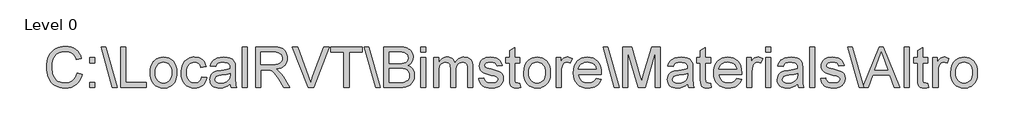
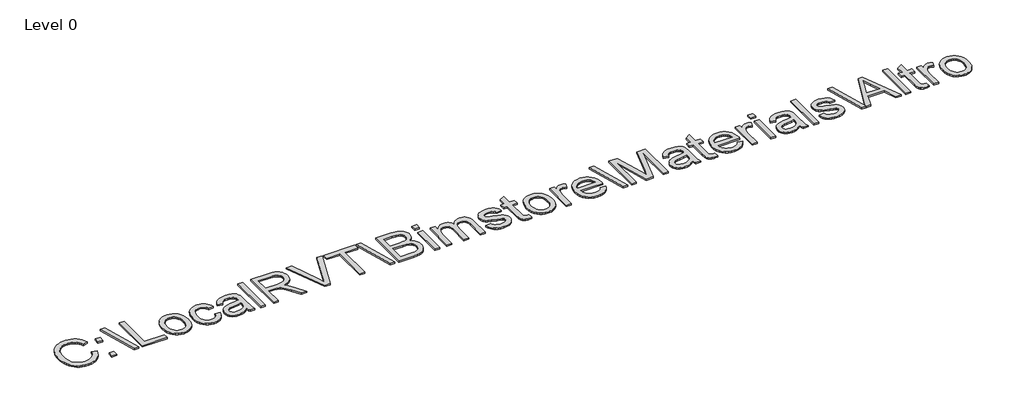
# One storey, part 5 of 6: 1 proxy.
"""IFC4 building model written with IfcOpenShell, lengths in millimetres."""

from ifc_helpers import new_model, si_unit, origin, origin_with_axes, place, context, project, spatial, polyline, outline, extrude, element, save

model = new_model("IFC4")

# Units and contexts
model_context = context("Model", 3, world=origin())
ifc_project = project(units=[si_unit("LENGTHUNIT", "METRE", prefix="MILLI")], contexts=[model_context])

# Site, building, storey
site = spatial("IfcSite", under=ifc_project)
building = spatial("IfcBuilding", under=site)
storey = spatial("IfcBuildingStorey", under=building, Name="Level 0", Elevation=0.0)

# Proxy
placement = place(None, origin())
element("IfcBuildingElementProxy", 1, Name="300mm Arial", ObjectType="300mm Arial", at=placement, inside=storey, context=model_context, shape_type="SweptSolid", body=[
    extrude(outline(polyline([(-63061.1102763, 92194.0638738), (-62975.4133066, 92171.9701238), (-62992.3706782, 92118.6762746), (-63014.9560978, 92072.1088844), (-63043.1695655, 92032.2679532), (-63077.0110813, 91999.1534808), (-63115.716988, 91973.1211433), (-63158.5236286, 91954.5266164), (-63205.4310031, 91943.3699004), (-63256.4391116, 91939.650995), (-63308.6973162, 91942.465019), (-63355.8400645, 91950.9070911), (-63397.8673564, 91964.9772113), (-63434.7791921, 91984.6753795), (-63467.0829326, 92009.7086862), (-63495.2859392, 92039.7842218), (-63519.388212, 92074.9019864), (-63539.3897508, 92115.0619798), (-63555.0970262, 92158.527667), (-63566.3165086, 92203.5625125), (-63573.048198, 92250.1665164), (-63575.2920945, 92298.3396787), (-63572.7552885, 92350.0277558), (-63565.1448703, 92398.3055286), (-63552.4608401, 92443.1729972), (-63534.7031977, 92484.6301617), (-63512.2694634, 92521.9918227), (-63485.5571573, 92554.5727812), (-63454.5662792, 92582.3730372), (-63419.2968294, 92605.3925906), (-63380.9465986, 92623.4431425), (-63340.7133777, 92636.3363939), (-63298.5971667, 92644.0723447), (-63254.5979657, 92646.650995), (-63205.5826885, 92643.3139182), (-63160.6367619, 92633.3026877), (-63119.7601861, 92616.6173036), (-63082.952961, 92593.2577658), (-63050.8218279, 92563.8412767), (-63023.973528, 92528.9850386), (-63002.4080613, 92488.6890513), (-62986.1254279, 92442.9533151), (-63071.8223976, 92422.533334), (-63085.3171596, 92456.2336255), (-63101.5317962, 92485.0276818), (-63120.4663074, 92508.9155029), (-63142.120693, 92527.8970887), (-63166.6204859, 92542.3594985), (-63194.0912186, 92552.6897912), (-63224.5328912, 92558.8879668), (-63257.9455036, 92560.9540253), (-63296.3898839, 92558.6630541), (-63331.5494927, 92551.7901404), (-63363.42433, 92540.3352842), (-63392.0143957, 92524.2984855), (-63416.9587834, 92504.4015573), (-63437.8965867, 92481.3663122), (-63454.8278056, 92455.1927504), (-63467.7524402, 92425.8808719), (-63484.1344537, 92363.1563809), (-63489.5951248, 92298.5070556), (-63487.9788917, 92257.583405), (-63483.1301923, 92219.3377848), (-63475.0490266, 92183.7701948), (-63463.7353947, 92150.8806351), (-63449.006228, 92121.3229218), (-63430.6784582, 92095.7508707), (-63408.7520851, 92074.1644819), (-63383.2271087, 92056.5637554), (-63355.3431643, 92042.906847), (-63326.3398869, 92033.1519124), (-63296.2172765, 92027.2989516), (-63264.9753332, 92025.3479647), (-63227.7182827, 92028.0050729), (-63193.4426331, 92035.9763975), (-63162.1483845, 92049.2619384), (-63133.8355368, 92067.8616958), (-63109.1735975, 92091.691981), (-63088.8320744, 92120.6691058), (-63072.8109673, 92154.79307), (-63061.1102763, 92194.0638738)])), origin_with_axes(), (0.0, 0.0, 1.0), 25.0),
    extrude(outline(polyline([(-62846.8678521, 91950.3631162), (-62846.8678521, 92036.0600859), (-62761.1708824, 92036.0600859), (-62761.1708824, 91950.3631162), (-62846.8678521, 91950.3631162)])), origin_with_axes(), (0.0, 0.0, 1.0), 25.0),
    extrude(outline(polyline([(-62846.8678521, 92368.1358435), (-62846.8678521, 92453.8328132), (-62761.1708824, 92453.8328132), (-62761.1708824, 92368.1358435), (-62846.8678521, 92368.1358435)])), origin_with_axes(), (0.0, 0.0, 1.0), 25.0),
    extrude(outline(polyline([(-62463.574765, 91950.3631162), (-62656.3929468, 92635.9388738), (-62579.0648218, 92635.9388738), (-62386.24664, 91950.3631162), (-62463.574765, 91950.3631162)])), origin_with_axes(), (0.0, 0.0, 1.0), 25.0),
    extrude(outline(polyline([(-62321.9739127, 91950.3631162), (-62321.9739127, 92635.9388738), (-62236.276943, 92635.9388738), (-62236.276943, 92036.0600859), (-61893.4890642, 92036.0600859), (-61893.4890642, 91950.3631162), (-62321.9739127, 91950.3631162)])), origin_with_axes(), (0.0, 0.0, 1.0), 25.0),
    extrude(outline(polyline([(-61829.216337, 92202.0979647), (-61824.5820892, 92267.3017259), (-61810.6793459, 92323.488057), (-61787.5081072, 92370.6569579), (-61772.446802, 92390.8598721), (-61755.0683729, 92408.8084287), (-61722.4089565, 92433.1931499), (-61686.360158, 92450.610808), (-61646.9219773, 92461.0614028), (-61604.0944146, 92464.5449344), (-61556.8156726, 92460.3029762), (-61514.0665678, 92447.5771018), (-61475.8471001, 92426.367311), (-61442.1572697, 92396.6736039), (-61414.6603844, 92359.5002419), (-61395.019752, 92315.8514862), (-61383.2353725, 92265.727337), (-61379.307246, 92209.1277942), (-61381.0437813, 92163.2560642), (-61386.2533871, 92122.5520958), (-61394.9360635, 92087.0158891), (-61407.0918104, 92056.6474439), (-61422.5689426, 92030.4163463), (-61441.2157747, 92007.2921823), (-61463.0323067, 91987.2749518), (-61488.0185387, 91970.364655), (-61515.2015923, 91956.9274288), (-61543.6085896, 91947.32941), (-61573.2395303, 91941.5705987), (-61604.0944146, 91939.650995), (-61652.0635863, 91943.8772616), (-61695.2102112, 91956.5560613), (-61733.5342894, 91977.6873941), (-61767.0358209, 92007.2712601), (-61794.2397966, 92044.8055286), (-61813.6712079, 92089.7880689), (-61825.3300547, 92142.2188809), (-61829.216337, 92202.0979647)]), holes=[polyline([(-61743.5193673, 92202.2653416), (-61741.040097, 92160.6983361), (-61733.6022863, 92124.7070734), (-61721.2059351, 92094.2915534), (-61703.8510434, 92069.4517762), (-61682.7406326, 92050.1563587), (-61659.0777243, 92036.3739176), (-61632.8623182, 92028.1044529), (-61604.0944146, 92025.3479647), (-61575.4729657, 92028.1201445), (-61549.3621703, 92036.4366839), (-61525.7620282, 92050.2975829), (-61504.6725396, 92069.7028416), (-61487.3176479, 92094.7884536), (-61474.9212967, 92125.6904126), (-61467.483486, 92162.4087187), (-61465.0042157, 92204.9433719), (-61467.4991776, 92245.1922844), (-61474.984063, 92280.242052), (-61487.4588722, 92310.092675), (-61504.9236049, 92334.7441531), (-61526.0915515, 92354.0395707), (-61549.676002, 92367.8220118), (-61575.6769563, 92376.0914765), (-61604.0944146, 92378.8479647), (-61632.8623182, 92376.1019375), (-61659.0777243, 92367.863856), (-61682.7406326, 92354.1337202), (-61703.8510434, 92334.91153), (-61721.2059351, 92310.1449803), (-61733.6022863, 92279.7817656), (-61741.040097, 92243.821886), (-61743.5193673, 92202.2653416)])]), origin_with_axes(), (0.0, 0.0, 1.0), 25.0),
    extrude(outline(polyline([(-60961.5345188, 92132.4691768), (-60875.8375491, 92121.7570556), (-60885.1583499, 92081.3198441), (-60899.7306007, 92045.5378025), (-60919.5543016, 92014.4109308), (-60944.6294525, 91987.9392289), (-60973.8994868, 91966.8131266), (-61006.3078379, 91951.7230535), (-61041.8545057, 91942.6690096), (-61080.5394904, 91939.650995), (-61128.6028116, 91943.86157), (-61171.6971312, 91956.4932949), (-61209.8224493, 91977.5461699), (-61242.9787659, 92007.0201948), (-61269.8166048, 92044.3609337), (-61288.9864896, 92089.0139507), (-61300.4884206, 92140.9792458), (-61304.3223976, 92200.2568189), (-61302.6852423, 92239.6583858), (-61297.7737766, 92276.5179162), (-61289.5880004, 92310.8354099), (-61278.1279137, 92342.6108672), (-61263.3150585, 92371.2061634), (-61245.0709771, 92395.9831742), (-61223.3956693, 92416.9418996), (-61198.2891352, 92434.0823397), (-61170.8863994, 92447.4097249), (-61142.3224863, 92456.9292857), (-61112.5973961, 92462.6410222), (-61081.7111286, 92464.5449344), (-61043.6904211, 92461.9296704), (-61009.2996999, 92454.0838785), (-60978.5389651, 92441.0075587), (-60951.4082167, 92422.7007109), (-60928.3677411, 92399.5817774), (-60909.8778249, 92372.0692005), (-60895.9384679, 92340.1629801), (-60886.5496703, 92303.8631162), (-60972.24664, 92293.150995), (-60987.791769, 92330.5388087), (-60998.8124914, 92345.2627448), (-61011.9986523, 92357.3400338), (-61043.5282747, 92373.470982), (-61081.041621, 92378.8479647), (-61110.1599701, 92376.2013176), (-61136.4224508, 92368.2613762), (-61159.8290633, 92355.0281405), (-61180.3798076, 92336.5016105), (-61197.1122665, 92312.252883), (-61209.0640228, 92281.8530547), (-61216.2350766, 92245.3021254), (-61218.6254279, 92202.6000954), (-61216.2873819, 92159.2547104), (-61209.2732439, 92122.2801084), (-61197.583014, 92091.6762894), (-61181.2166921, 92067.4432535), (-61161.073929, 92049.0265647), (-61138.0543755, 92035.8717869), (-61112.1580317, 92027.9789202), (-61083.3848976, 92025.3479647), (-61060.1979672, 92026.9903505), (-61039.0090986, 92031.9175078), (-61019.8182916, 92040.1294366), (-61002.6255462, 92051.626137), (-60987.9120711, 92066.5331417), (-60976.1590749, 92084.9759832), (-60967.3665574, 92106.9546615), (-60961.5345188, 92132.4691768)])), origin_with_axes(), (0.0, 0.0, 1.0), 25.0),
    extrude(outline(polyline([(-60479.4890642, 92014.6358435), (-60520.4336369, 91979.52854), (-60562.5916921, 91956.5560613), (-60606.9256468, 91943.8772616), (-60654.3979184, 91939.650995), (-60692.5546197, 91942.1930316), (-60726.0143069, 91949.8191413), (-60754.77698, 91962.5293242), (-60778.842639, 91980.3235802), (-60797.845147, 92002.0721154), (-60811.418367, 92026.6451356), (-60819.562299, 92054.0426409), (-60822.276943, 92084.2646314), (-60818.1762091, 92119.7903771), (-60805.8740074, 92152.0522734), (-60786.8976521, 92179.6694609), (-60762.7744572, 92201.2610802), (-60734.4249958, 92217.5803274), (-60702.7698407, 92229.3803984), (-60628.6218767, 92242.2684192), (-60541.0000727, 92255.8259476), (-60479.9911949, 92271.7267526), (-60479.4890642, 92290.8077185), (-60480.9640731, 92311.5833754), (-60485.3890997, 92329.0533387), (-60492.7641441, 92343.2176084), (-60503.0892063, 92354.0761844), (-60520.9357676, 92364.9138383), (-60542.6738417, 92372.6550196), (-60568.3034286, 92377.2997284), (-60597.8245282, 92378.8479647), (-60648.8744809, 92374.7263087), (-60668.6249544, 92369.5742387), (-60684.5257593, 92362.3613406), (-60697.5916181, 92352.5227176), (-60708.8372531, 92339.4934725), (-60725.8678521, 92303.8631162), (-60811.5648218, 92314.5752374), (-60796.6892004, 92361.4407677), (-60774.4908398, 92398.2636844), (-60760.1278101, 92413.2543775), (-60742.8984511, 92426.4248468), (-60699.8407451, 92447.3051143), (-60647.1797898, 92460.2349794), (-60586.7776532, 92464.5449344), (-60528.8443258, 92460.7371101), (-60482.9202905, 92449.313637), (-60448.2941956, 92432.1365833), (-60424.2546892, 92411.0680168), (-60408.3120401, 92385.0199877), (-60397.9765169, 92352.9045461), (-60393.7920945, 92277.9196976), (-60393.7920945, 92171.3006162), (-60392.7041447, 92078.4273622), (-60389.4402953, 92022.418869), (-60382.9962849, 91985.6168745), (-60372.3678521, 91950.3631162), (-60458.0648218, 91950.3631162), (-60471.7897271, 91980.1562033), (-60479.4890642, 92014.6358435)]), holes=[polyline([(-60479.4890642, 92186.0297829), (-60537.0667157, 92171.7609027), (-60617.7423786, 92159.7516105), (-60662.2018661, 92153.1820674), (-60691.4719004, 92145.8593283), (-60710.6574769, 92136.3606896), (-60724.8635907, 92123.2634476), (-60733.6508777, 92107.5718638), (-60736.5799733, 92090.2901995), (-60734.9846623, 92076.9732754), (-60730.1987292, 92064.8070674), (-60711.054997, 92043.9267999), (-60696.8018084, 92035.7985595), (-60679.5672188, 92029.9926735), (-60636.153837, 92025.3479647), (-60590.1251911, 92030.4738821), (-60549.4526059, 92045.8516342), (-60516.4793578, 92068.5102812), (-60493.5487233, 92095.4788833), (-60483.380577, 92123.2634476), (-60479.9911949, 92161.7601333), (-60479.4890642, 92186.0297829)])]), origin_with_axes(), (0.0, 0.0, 1.0), 25.0),
    extrude(outline(polyline([(-60275.9587612, 91950.3631162), (-60275.9587612, 92635.9388738), (-60190.2617915, 92635.9388738), (-60190.2617915, 91950.3631162), (-60275.9587612, 91950.3631162)])), origin_with_axes(), (0.0, 0.0, 1.0), 25.0),
    extrude(outline(polyline([(-60051.0042157, 91950.3631162), (-60051.0042157, 92635.9388738), (-59755.5839979, 92635.9388738), (-59676.1845839, 92631.3150871), (-59644.5974257, 92625.5353537), (-59618.4186334, 92617.443727), (-59596.1261233, 92606.4177741), (-59576.1978119, 92591.8350622), (-59558.633699, 92573.6955913), (-59543.4337849, 92551.9993615), (-59531.1681969, 92527.9127803), (-59522.4070626, 92502.6022556), (-59517.150382, 92476.0677874), (-59515.3981551, 92448.3093757), (-59518.3010981, 92413.0974616), (-59527.0099271, 92380.772799), (-59541.5246422, 92351.3353878), (-59561.8452432, 92324.7852279), (-59588.2332566, 92301.9696651), (-59620.9502089, 92283.7360447), (-59659.9960999, 92270.0843668), (-59705.3709298, 92261.0146314), (-59677.1260789, 92242.5613288), (-59656.6642536, 92224.3590916), (-59621.5569501, 92182.7240892), (-59587.2028426, 92136.1514685), (-59472.8844241, 91950.3631162), (-59572.473676, 91950.3631162), (-59661.6855604, 92092.4660992), (-59726.1256646, 92186.5319136), (-59750.0814825, 92213.960802), (-59771.4011144, 92230.9704789), (-59791.5909522, 92240.9503262), (-59812.1573881, 92247.2897261), (-59861.8683256, 92250.3025101), (-59965.307246, 92250.3025101), (-59965.307246, 91950.3631162), (-60051.0042157, 91950.3631162)]), holes=[polyline([(-59965.307246, 92335.9994798), (-59773.4933256, 92335.9994798), (-59718.4054054, 92339.033186), (-59675.6615311, 92348.1343047), (-59643.4833232, 92363.9095769), (-59620.0924023, 92386.965744), (-59605.8444442, 92414.854919), (-59601.0951248, 92445.1292147), (-59603.3599434, 92467.0451267), (-59610.1543992, 92486.931594), (-59621.4784922, 92504.7886163), (-59637.3322224, 92520.6161939), (-59658.0817267, 92533.5774421), (-59684.0931421, 92542.8354765), (-59715.3664686, 92548.3902972), (-59751.9017063, 92550.2419041), (-59965.307246, 92550.2419041), (-59965.307246, 92335.9994798)])]), origin_with_axes(), (0.0, 0.0, 1.0), 25.0),
    extrude(outline(polyline([(-59162.9024165, 91950.3631162), (-59435.7267536, 92635.9388738), (-59344.0042157, 92635.9388738), (-59161.3960245, 92142.0096598), (-59124.4057309, 92030.7040253), (-59087.917568, 92142.0096598), (-58904.807246, 92635.9388738), (-58813.0847082, 92635.9388738), (-59074.3600396, 91950.3631162), (-59162.9024165, 91950.3631162)])), origin_with_axes(), (0.0, 0.0, 1.0), 25.0),
    extrude(outline(polyline([(-58562.0193673, 91950.3631162), (-58562.0193673, 92550.2419041), (-58786.9739127, 92550.2419041), (-58786.9739127, 92635.9388738), (-58251.3678521, 92635.9388738), (-58251.3678521, 92550.2419041), (-58476.3223976, 92550.2419041), (-58476.3223976, 91950.3631162), (-58562.0193673, 91950.3631162)])), origin_with_axes(), (0.0, 0.0, 1.0), 25.0),
    extrude(outline(polyline([(-58028.7565832, 91950.3631162), (-58221.574765, 92635.9388738), (-58144.24664, 92635.9388738), (-57951.4284582, 91950.3631162), (-58028.7565832, 91950.3631162)])), origin_with_axes(), (0.0, 0.0, 1.0), 25.0),
    extrude(outline(polyline([(-57887.1557309, 91950.3631162), (-57887.1557309, 92635.9388738), (-57625.5456457, 92635.9388738), (-57553.5945034, 92630.8966449), (-57523.5346593, 92624.5938587), (-57497.4186334, 92615.7699581), (-57474.5821484, 92604.3307935), (-57454.3609274, 92590.1822154), (-57436.7549704, 92573.3242239), (-57421.7642773, 92553.7568189), (-57409.7915988, 92532.5836418), (-57401.2396857, 92510.908334), (-57396.1085378, 92488.7308956), (-57394.3981551, 92466.0513264), (-57400.1517359, 92424.772), (-57417.412478, 92385.9614827), (-57430.3894179, 92368.0783077), (-57446.3059144, 92352.0048953), (-57486.9575775, 92325.2873586), (-57461.0926168, 92314.2614057), (-57438.3973561, 92299.9297592), (-57418.8717953, 92282.292419), (-57402.5159345, 92261.3493851), (-57389.5913, 92237.738782), (-57380.3594182, 92212.0987341), (-57374.8202891, 92184.4292413), (-57372.9739127, 92154.7303037), (-57378.0161416, 92106.9232784), (-57393.1428284, 92062.5893236), (-57415.717787, 92024.8876782), (-57443.1048313, 91996.9775812), (-57476.6429764, 91976.7668212), (-57517.6712375, 91962.1631872), (-57567.5286298, 91953.313134), (-57627.5541684, 91950.3631162), (-57887.1557309, 91950.3631162)]), holes=[polyline([(-57801.4587612, 92036.0600859), (-57625.7130226, 92036.0600859), (-57562.1098029, 92039.4076238), (-57532.5887032, 92046.8349735), (-57508.2981315, 92058.0701475), (-57488.547658, 92074.1592514), (-57472.646853, 92096.1483908), (-57462.1648751, 92123.0542265), (-57458.6708824, 92153.8934192), (-57462.7716163, 92189.7120745), (-57475.073818, 92220.509423), (-57484.5463041, 92233.6014344), (-57496.5608268, 92244.5907736), (-57528.2159818, 92260.2614353), (-57573.0520673, 92268.8604233), (-57634.0818673, 92271.7267526), (-57801.4587612, 92271.7267526), (-57801.4587612, 92036.0600859)]), polyline([(-57801.4587612, 92357.4237223), (-57644.9613654, 92357.4237223), (-57590.229121, 92359.2648681), (-57553.5735813, 92364.7883056), (-57521.5836724, 92377.4880274), (-57498.5902716, 92396.506227), (-57484.7189115, 92421.5499948), (-57480.0951248, 92452.3264211), (-57484.4050798, 92482.2031967), (-57497.3349449, 92508.2303037), (-57518.2989009, 92528.5456742), (-57546.7111286, 92541.2872403), (-57590.3128095, 92548.0032381), (-57656.8451248, 92550.2419041), (-57801.4587612, 92550.2419041), (-57801.4587612, 92357.4237223)])]), origin_with_axes(), (0.0, 0.0, 1.0), 25.0),
    extrude(outline(polyline([(-57265.8527006, 92550.2419041), (-57265.8527006, 92635.9388738), (-57180.1557309, 92635.9388738), (-57180.1557309, 92550.2419041), (-57265.8527006, 92550.2419041)])), origin_with_axes(), (0.0, 0.0, 1.0), 25.0),
    extrude(outline(polyline([(-57265.8527006, 91950.3631162), (-57265.8527006, 92453.8328132), (-57180.1557309, 92453.8328132), (-57180.1557309, 91950.3631162), (-57265.8527006, 91950.3631162)])), origin_with_axes(), (0.0, 0.0, 1.0), 25.0),
    extrude(outline(polyline([(-57051.6102763, 91950.3631162), (-57051.6102763, 92453.8328132), (-56965.9133066, 92453.8328132), (-56965.9133066, 92370.9812507), (-56940.137265, 92409.0385719), (-56906.99664, 92438.8525812), (-56887.9470572, 92450.0929857), (-56867.6212257, 92458.1218461), (-56846.0191453, 92462.9391623), (-56823.1408161, 92464.5449344), (-56798.1284315, 92462.9077791), (-56775.4802456, 92457.9963134), (-56755.1962582, 92449.8105372), (-56737.2764695, 92438.3504505), (-56721.7731847, 92423.940346), (-56708.7387091, 92406.9045165), (-56698.1730427, 92387.242962), (-56690.0761854, 92364.9556825), (-56658.8394726, 92408.5259802), (-56623.2091163, 92439.6476214), (-56603.7463219, 92450.5401958), (-56583.1851165, 92458.3206061), (-56561.5255004, 92462.9888523), (-56538.7674733, 92464.5449344), (-56504.4604406, 92461.9558231), (-56474.3482913, 92454.1884891), (-56448.4310253, 92441.2429324), (-56426.7086428, 92423.1191531), (-56409.5368196, 92399.6079301), (-56397.2712316, 92370.5000421), (-56389.9118788, 92335.7954893), (-56387.4587612, 92295.4942715), (-56387.4587612, 91950.3631162), (-56473.1557309, 91950.3631162), (-56473.1557309, 92258.6713548), (-56475.1433315, 92301.4152291), (-56481.1061334, 92330.224977), (-56492.278541, 92349.9545284), (-56509.8949591, 92365.4578132), (-56532.5536061, 92375.5004268), (-56558.8527006, 92378.8479647), (-56583.1380418, 92376.7034482), (-56605.2788665, 92370.2698989), (-56625.2751748, 92359.5473166), (-56643.1269667, 92344.5357014), (-56657.8090586, 92324.795689), (-56668.2962671, 92299.887915), (-56674.5885922, 92269.8123793), (-56676.6860339, 92234.5690821), (-56676.6860339, 91950.3631162), (-56762.3830036, 91950.3631162), (-56762.3830036, 92268.2118378), (-56767.3415441, 92316.6674486), (-56773.5397197, 92335.6856482), (-56782.2171655, 92351.2307772), (-56793.7190965, 92363.3132967), (-56808.3907273, 92371.9436678), (-56826.2320581, 92377.1218905), (-56847.2430888, 92378.8479647), (-56880.2581812, 92374.2451001), (-56910.6789316, 92360.4365064), (-56935.7854657, 92337.7569372), (-56952.8579089, 92306.5411465), (-56962.6494572, 92263.2323752), (-56965.9133066, 92204.2738643), (-56965.9133066, 91950.3631162), (-57051.6102763, 91950.3631162)])), origin_with_axes(), (0.0, 0.0, 1.0), 25.0),
    extrude(outline(polyline([(-56291.0496703, 92100.3328132), (-56205.3527006, 92111.0449344), (-56200.1744779, 92091.503682), (-56191.8370164, 92074.3893946), (-56180.340316, 92059.7020722), (-56165.6843767, 92047.4417147), (-56147.8273544, 92037.7756991), (-56126.7274047, 92030.8714022), (-56074.7987233, 92025.3479647), (-56023.4977053, 92030.4111157), (-56003.5589328, 92036.7400545), (-55987.4279847, 92045.6005689), (-55966.0874307, 92067.6106304), (-55960.7522922, 92079.9337542), (-55958.9739127, 92093.1356067), (-55960.7627533, 92104.7055345), (-55966.1292749, 92114.9782914), (-55975.0734777, 92123.9538773), (-55987.5953616, 92131.6322923), (-56019.689881, 92142.5117904), (-56075.8029847, 92156.0693189), (-56154.0098384, 92178.6861217), (-56204.8505699, 92197.9972308), (-56237.5099863, 92219.0657973), (-56261.1728947, 92246.9549723), (-56275.5463855, 92279.8863762), (-56280.3375491, 92316.0816295), (-56276.4878805, 92349.2850208), (-56264.9388748, 92379.9359145), (-56246.7366376, 92406.8208281), (-56222.9272745, 92428.7262791), (-56199.2643661, 92442.5139507), (-56168.4460955, 92454.0838785), (-56132.8157392, 92461.9296704), (-56094.7165737, 92464.5449344), (-56038.9382238, 92460.3395899), (-55990.4407688, 92447.7235565), (-55951.4419525, 92427.9312388), (-55924.1595188, 92402.1970414), (-55906.0828142, 92368.617052), (-55894.7011854, 92325.2873586), (-55980.3981551, 92314.5752374), (-55991.2148869, 92341.5438395), (-56012.6182072, 92361.85921), (-56044.8173372, 92374.600776), (-56088.0214979, 92378.8479647), (-56137.2303048, 92374.789075), (-56155.6836073, 92369.7154629), (-56170.036176, 92362.612406), (-56188.4894785, 92345.0378321), (-56194.6405794, 92324.7852279), (-56192.0880817, 92311.6042976), (-56184.4305888, 92299.8460708), (-56171.3333469, 92289.3431707), (-56152.4616021, 92280.9324817), (-56078.6483919, 92262.6884003), (-56002.9312695, 92240.3017407), (-55952.8646561, 92222.3505689), (-55919.6403426, 92203.0603818), (-55894.4501201, 92176.6566768), (-55878.5702373, 92143.0557654), (-55873.276943, 92102.173959), (-55879.4908102, 92059.9112933), (-55898.1324118, 92020.159281), (-55911.935775, 92002.0041185), (-55928.4903959, 91986.0353167), (-55947.7962745, 91972.2528756), (-55969.8534108, 91960.6567952), (-56019.8154137, 91944.902445), (-56075.9703616, 91939.650995), (-56122.0931569, 91942.1825705), (-56162.3786831, 91949.7772971), (-56196.8269401, 91962.4351747), (-56225.4379279, 91980.1562033), (-56248.8079267, 92002.8566946), (-56267.5332167, 92030.45296), (-56281.6137979, 92062.9449995), (-56291.0496703, 92100.3328132)])), origin_with_axes(), (0.0, 0.0, 1.0), 25.0),
    extrude(outline(polyline([(-55594.7617915, 92021.8330499), (-55584.0496703, 91947.8524628), (-55617.9853355, 91941.7013619), (-55648.1550207, 91939.650995), (-55689.2878923, 91943.207754), (-55719.9597082, 91953.878031), (-55741.6350159, 91970.3228108), (-55755.7783635, 91991.2030783), (-55763.561389, 92027.0635779), (-55766.1557309, 92088.4490537), (-55766.1557309, 92368.1358435), (-55830.4284582, 92368.1358435), (-55830.4284582, 92453.8328132), (-55766.1557309, 92453.8328132), (-55766.1557309, 92576.1853226), (-55680.4587612, 92626.5657677), (-55680.4587612, 92453.8328132), (-55594.7617915, 92453.8328132), (-55594.7617915, 92368.1358435), (-55680.4587612, 92368.1358435), (-55680.4587612, 92090.9597071), (-55679.3289672, 92062.7567005), (-55675.9395851, 92046.7722071), (-55670.0186274, 92037.9221538), (-55661.2941068, 92031.1224675), (-55648.9291388, 92026.7915904), (-55632.0868388, 92025.3479647), (-55594.7617915, 92021.8330499)])), origin_with_axes(), (0.0, 0.0, 1.0), 25.0),
    extrude(outline(polyline([(-55530.4890642, 92202.0979647), (-55525.8548165, 92267.3017259), (-55511.9520732, 92323.488057), (-55488.7808345, 92370.6569579), (-55473.7195293, 92390.8598721), (-55456.3411002, 92408.8084287), (-55423.6816838, 92433.1931499), (-55387.6328852, 92450.610808), (-55348.1947046, 92461.0614028), (-55305.3671419, 92464.5449344), (-55258.0883999, 92460.3029762), (-55215.339295, 92447.5771018), (-55177.1198274, 92426.367311), (-55143.429997, 92396.6736039), (-55115.9331116, 92359.5002419), (-55096.2924792, 92315.8514862), (-55084.5080998, 92265.727337), (-55080.5799733, 92209.1277942), (-55082.3165086, 92163.2560642), (-55087.5261144, 92122.5520958), (-55096.2087908, 92087.0158891), (-55108.3645377, 92056.6474439), (-55123.8416699, 92030.4163463), (-55142.488502, 92007.2921823), (-55164.305034, 91987.2749518), (-55189.2912659, 91970.364655), (-55216.4743196, 91956.9274288), (-55244.8813168, 91947.32941), (-55274.5122576, 91941.5705987), (-55305.3671419, 91939.650995), (-55353.3363136, 91943.8772616), (-55396.4829385, 91956.5560613), (-55434.8070167, 91977.6873941), (-55468.3085481, 92007.2712601), (-55495.5125239, 92044.8055286), (-55514.9439352, 92089.7880689), (-55526.602782, 92142.2188809), (-55530.4890642, 92202.0979647)]), holes=[polyline([(-55444.7920945, 92202.2653416), (-55442.3128243, 92160.6983361), (-55434.8750136, 92124.7070734), (-55422.4786624, 92094.2915534), (-55405.1237707, 92069.4517762), (-55384.0133599, 92050.1563587), (-55360.3504515, 92036.3739176), (-55334.1350455, 92028.1044529), (-55305.3671419, 92025.3479647), (-55276.745693, 92028.1201445), (-55250.6348976, 92036.4366839), (-55227.0347555, 92050.2975829), (-55205.9452669, 92069.7028416), (-55188.5903752, 92094.7884536), (-55176.194024, 92125.6904126), (-55168.7562133, 92162.4087187), (-55166.276943, 92204.9433719), (-55168.7719048, 92245.1922844), (-55176.2567903, 92280.242052), (-55188.7315994, 92310.092675), (-55206.1963322, 92334.7441531), (-55227.3642788, 92354.0395707), (-55250.9487292, 92367.8220118), (-55276.9496836, 92376.0914765), (-55305.3671419, 92378.8479647), (-55334.1350455, 92376.1019375), (-55360.3504515, 92367.863856), (-55384.0133599, 92354.1337202), (-55405.1237707, 92334.91153), (-55422.4786624, 92310.1449803), (-55434.8750136, 92279.7817656), (-55442.3128243, 92243.821886), (-55444.7920945, 92202.2653416)])]), origin_with_axes(), (0.0, 0.0, 1.0), 25.0),
    extrude(outline(polyline([(-54984.1708824, 91950.3631162), (-54984.1708824, 92453.8328132), (-54909.1860339, 92453.8328132), (-54909.1860339, 92379.3500954), (-54881.485158, 92422.533334), (-54855.9601816, 92447.9746219), (-54830.3515169, 92460.4023563), (-54802.3995756, 92464.5449344), (-54781.1427101, 92462.8920876), (-54759.7184676, 92457.9335471), (-54716.3678521, 92438.0993851), (-54744.989301, 92361.2733908), (-54775.1171419, 92374.4543212), (-54805.2449828, 92378.8479647), (-54830.8327254, 92374.6216981), (-54853.7005936, 92361.9428984), (-54872.1748182, 92341.7739827), (-54884.5816305, 92315.0773681), (-54895.0008422, 92267.2075764), (-54898.4739127, 92214.9859855), (-54898.4739127, 91950.3631162), (-54984.1708824, 91950.3631162)])), origin_with_axes(), (0.0, 0.0, 1.0), 25.0),
    extrude(outline(polyline([(-54310.3115074, 92100.3328132), (-54226.2883066, 92089.620692), (-54239.171097, 92055.9674752), (-54256.5626023, 92026.3103818), (-54278.4628228, 92000.6494118), (-54304.8717584, 91978.9845651), (-54335.5174215, 91961.7761282), (-54370.1278249, 91949.4843875), (-54408.7029684, 91942.1093431), (-54451.2428521, 91939.650995), (-54504.4163991, 91943.8929532), (-54551.7945211, 91956.6188276), (-54593.3772182, 91977.8286184), (-54629.1644904, 92007.5223255), (-54657.9428551, 92044.8735255), (-54678.4988298, 92089.0557949), (-54690.8324147, 92140.0691339), (-54694.9436097, 92197.9135423), (-54690.7905705, 92257.7193988), (-54678.331453, 92310.4326593), (-54657.5662571, 92356.0533239), (-54628.4949828, 92394.5813927), (-54592.8018602, 92425.1904422), (-54552.1711191, 92447.054049), (-54506.6027598, 92460.172213), (-54456.096782, 92464.5449344), (-54407.2174985, 92460.1826741), (-54363.0143069, 92447.0958932), (-54323.4872073, 92425.2845917), (-54288.6361996, 92394.7487696), (-54260.1873582, 92356.3043893), (-54239.8667572, 92310.7674131), (-54227.6743966, 92258.137841), (-54223.6102763, 92198.415673), (-54224.112407, 92175.3176617), (-54609.24664, 92175.3176617), (-54604.282869, 92141.12047), (-54594.4128628, 92111.1704671), (-54579.6366213, 92085.4676528), (-54559.9541447, 92064.0120272), (-54536.4533827, 92047.0964998), (-54510.2222851, 92035.0139803), (-54481.2608519, 92027.7644686), (-54449.5690832, 92025.3479647), (-54403.9588796, 92029.8252966), (-54365.5458824, 92043.2572923), (-54349.0383362, 92053.5405103), (-54334.3300917, 92066.4808364), (-54310.3115074, 92100.3328132)]), holes=[polyline([(-54609.24664, 92261.0146314), (-54309.307246, 92261.0146314), (-54313.7113506, 92285.2633589), (-54320.8980959, 92306.2900812), (-54330.8674822, 92324.0947983), (-54343.6195093, 92338.6775101), (-54366.9895081, 92356.252084), (-54393.5815121, 92368.8053511), (-54423.3955214, 92376.3373113), (-54456.4315358, 92378.8479647), (-54486.5646073, 92376.8446725), (-54514.1974863, 92370.8347959), (-54539.3301731, 92360.8183349), (-54561.9626674, 92346.7952895), (-54580.9547144, 92329.4142452), (-54595.1660588, 92309.3237874), (-54604.5967006, 92286.5239161), (-54609.24664, 92261.0146314)])]), origin_with_axes(), (0.0, 0.0, 1.0), 25.0),
    extrude(outline(polyline([(-54000.9990074, 91950.3631162), (-54193.8171892, 92635.9388738), (-54116.4890642, 92635.9388738), (-53923.6708824, 91950.3631162), (-54000.9990074, 91950.3631162)])), origin_with_axes(), (0.0, 0.0, 1.0), 25.0),
    extrude(outline(polyline([(-53859.3981551, 91950.3631162), (-53859.3981551, 92635.9388738), (-53711.9391116, 92635.9388738), (-53571.6772745, 92152.721781), (-53543.3905794, 92051.7935139), (-53512.7606078, 92161.0906257), (-53374.8420472, 92635.9388738), (-53227.3830036, 92635.9388738), (-53227.3830036, 91950.3631162), (-53313.0799733, 91950.3631162), (-53313.0799733, 92550.2419041), (-53485.3107972, 91950.3631162), (-53601.4703616, 91950.3631162), (-53773.7011854, 92550.2419041), (-53773.7011854, 91950.3631162), (-53859.3981551, 91950.3631162)])), origin_with_axes(), (0.0, 0.0, 1.0), 25.0),
    extrude(outline(polyline([(-52766.7617915, 92014.6358435), (-52807.7063642, 91979.52854), (-52849.8644193, 91956.5560613), (-52894.1983741, 91943.8772616), (-52941.6706457, 91939.650995), (-52979.827347, 91942.1930316), (-53013.2870342, 91949.8191413), (-53042.0497073, 91962.5293242), (-53066.1153663, 91980.3235802), (-53085.1178743, 92002.0721154), (-53098.6910943, 92026.6451356), (-53106.8350263, 92054.0426409), (-53109.5496703, 92084.2646314), (-53105.4489364, 92119.7903771), (-53093.1467347, 92152.0522734), (-53074.1703793, 92179.6694609), (-53050.0471845, 92201.2610802), (-53021.6977231, 92217.5803274), (-52990.042568, 92229.3803984), (-52915.894604, 92242.2684192), (-52828.2728, 92255.8259476), (-52767.2639222, 92271.7267526), (-52766.7617915, 92290.8077185), (-52768.2368004, 92311.5833754), (-52772.661827, 92329.0533387), (-52780.0368714, 92343.2176084), (-52790.3619335, 92354.0761844), (-52808.2084949, 92364.9138383), (-52829.946569, 92372.6550196), (-52855.5761558, 92377.2997284), (-52885.0972555, 92378.8479647), (-52936.1472082, 92374.7263087), (-52955.8976816, 92369.5742387), (-52971.7984866, 92362.3613406), (-52984.8643454, 92352.5227176), (-52996.1099804, 92339.4934725), (-53013.1405794, 92303.8631162), (-53098.8375491, 92314.5752374), (-53083.9619276, 92361.4407677), (-53061.7635671, 92398.2636844), (-53047.4005374, 92413.2543775), (-53030.1711783, 92426.4248468), (-52987.1134724, 92447.3051143), (-52934.4525171, 92460.2349794), (-52874.0503805, 92464.5449344), (-52816.1170531, 92460.7371101), (-52770.1930178, 92449.313637), (-52735.5669229, 92432.1365833), (-52711.5274165, 92411.0680168), (-52695.5847673, 92385.0199877), (-52685.2492441, 92352.9045461), (-52681.0648218, 92277.9196976), (-52681.0648218, 92171.3006162), (-52679.976872, 92078.4273622), (-52676.7130226, 92022.418869), (-52670.2690121, 91985.6168745), (-52659.6405794, 91950.3631162), (-52745.3375491, 91950.3631162), (-52759.0624544, 91980.1562033), (-52766.7617915, 92014.6358435)]), holes=[polyline([(-52766.7617915, 92186.0297829), (-52824.339443, 92171.7609027), (-52905.0151059, 92159.7516105), (-52949.4745933, 92153.1820674), (-52978.7446277, 92145.8593283), (-52997.9302041, 92136.3606896), (-53012.136318, 92123.2634476), (-53020.9236049, 92107.5718638), (-53023.8527006, 92090.2901995), (-53022.2573896, 92076.9732754), (-53017.4714565, 92064.8070674), (-52998.3277243, 92043.9267999), (-52984.0745356, 92035.7985595), (-52966.8399461, 92029.9926735), (-52923.4265642, 92025.3479647), (-52877.3979184, 92030.4738821), (-52836.7253332, 92045.8516342), (-52803.7520851, 92068.5102812), (-52780.8214506, 92095.4788833), (-52770.6533043, 92123.2634476), (-52767.2639222, 92161.7601333), (-52766.7617915, 92186.0297829)])]), origin_with_axes(), (0.0, 0.0, 1.0), 25.0),
    extrude(outline(polyline([(-52381.1254279, 92021.8330499), (-52370.4133066, 91947.8524628), (-52404.3489719, 91941.7013619), (-52434.518657, 91939.650995), (-52475.6515287, 91943.207754), (-52506.3233445, 91953.878031), (-52527.9986523, 91970.3228108), (-52542.1419998, 91991.2030783), (-52549.9250254, 92027.0635779), (-52552.5193673, 92088.4490537), (-52552.5193673, 92368.1358435), (-52616.7920945, 92368.1358435), (-52616.7920945, 92453.8328132), (-52552.5193673, 92453.8328132), (-52552.5193673, 92576.1853226), (-52466.8223976, 92626.5657677), (-52466.8223976, 92453.8328132), (-52381.1254279, 92453.8328132), (-52381.1254279, 92368.1358435), (-52466.8223976, 92368.1358435), (-52466.8223976, 92090.9597071), (-52465.6926035, 92062.7567005), (-52462.3032214, 92046.7722071), (-52456.3822638, 92037.9221538), (-52447.6577432, 92031.1224675), (-52435.2927752, 92026.7915904), (-52418.4504752, 92025.3479647), (-52381.1254279, 92021.8330499)])), origin_with_axes(), (0.0, 0.0, 1.0), 25.0),
    extrude(outline(polyline([(-51942.9327195, 92100.3328132), (-51858.9095188, 92089.620692), (-51871.7923091, 92055.9674752), (-51889.1838145, 92026.3103818), (-51911.0840349, 92000.6494118), (-51937.4929705, 91978.9845651), (-51968.1386336, 91961.7761282), (-52002.749037, 91949.4843875), (-52041.3241805, 91942.1093431), (-52083.8640642, 91939.650995), (-52137.0376112, 91943.8929532), (-52184.4157333, 91956.6188276), (-52225.9984303, 91977.8286184), (-52261.7857025, 92007.5223255), (-52290.5640672, 92044.8735255), (-52311.120042, 92089.0557949), (-52323.4536268, 92140.0691339), (-52327.5648218, 92197.9135423), (-52323.4117826, 92257.7193988), (-52310.9526651, 92310.4326593), (-52290.1874692, 92356.0533239), (-52261.1161949, 92394.5813927), (-52225.4230723, 92425.1904422), (-52184.7923313, 92447.054049), (-52139.2239719, 92460.172213), (-52088.7179941, 92464.5449344), (-52039.8387106, 92460.1826741), (-51995.635519, 92447.0958932), (-51956.1084194, 92425.2845917), (-51921.2574118, 92394.7487696), (-51892.8085703, 92356.3043893), (-51872.4879693, 92310.7674131), (-51860.2956087, 92258.137841), (-51856.2314885, 92198.415673), (-51856.7336191, 92175.3176617), (-52241.8678521, 92175.3176617), (-52236.9040811, 92141.12047), (-52227.0340749, 92111.1704671), (-52212.2578335, 92085.4676528), (-52192.5753568, 92064.0120272), (-52169.0745948, 92047.0964998), (-52142.8434972, 92035.0139803), (-52113.882064, 92027.7644686), (-52082.1902953, 92025.3479647), (-52036.5800917, 92029.8252966), (-51998.1670945, 92043.2572923), (-51981.6595484, 92053.5405103), (-51966.9513038, 92066.4808364), (-51942.9327195, 92100.3328132)]), holes=[polyline([(-52241.8678521, 92261.0146314), (-51941.9284582, 92261.0146314), (-51946.3325627, 92285.2633589), (-51953.5193081, 92306.2900812), (-51963.4886943, 92324.0947983), (-51976.2407214, 92338.6775101), (-51999.6107202, 92356.252084), (-52026.2027243, 92368.8053511), (-52056.0167335, 92376.3373113), (-52089.0527479, 92378.8479647), (-52119.1858194, 92376.8446725), (-52146.8186985, 92370.8347959), (-52171.9513852, 92360.8183349), (-52194.5838796, 92346.7952895), (-52213.5759265, 92329.4142452), (-52227.7872709, 92309.3237874), (-52237.2179128, 92286.5239161), (-52241.8678521, 92261.0146314)])]), origin_with_axes(), (0.0, 0.0, 1.0), 25.0),
    extrude(outline(polyline([(-51770.5345188, 91950.3631162), (-51770.5345188, 92453.8328132), (-51695.5496703, 92453.8328132), (-51695.5496703, 92379.3500954), (-51667.8487943, 92422.533334), (-51642.323818, 92447.9746219), (-51616.7151532, 92460.4023563), (-51588.763212, 92464.5449344), (-51567.5063464, 92462.8920876), (-51546.082104, 92457.9335471), (-51502.7314885, 92438.0993851), (-51531.3529373, 92361.2733908), (-51561.4807782, 92374.4543212), (-51591.6086191, 92378.8479647), (-51617.1963618, 92374.6216981), (-51640.0642299, 92361.9428984), (-51658.5384546, 92341.7739827), (-51670.9452669, 92315.0773681), (-51681.3644785, 92267.2075764), (-51684.8375491, 92214.9859855), (-51684.8375491, 91950.3631162), (-51770.5345188, 91950.3631162)])), origin_with_axes(), (0.0, 0.0, 1.0), 25.0),
    extrude(outline(polyline([(-51449.1708824, 92550.2419041), (-51449.1708824, 92635.9388738), (-51363.4739127, 92635.9388738), (-51363.4739127, 92550.2419041), (-51449.1708824, 92550.2419041)])), origin_with_axes(), (0.0, 0.0, 1.0), 25.0),
    extrude(outline(polyline([(-51449.1708824, 91950.3631162), (-51449.1708824, 92453.8328132), (-51363.4739127, 92453.8328132), (-51363.4739127, 91950.3631162), (-51449.1708824, 91950.3631162)])), origin_with_axes(), (0.0, 0.0, 1.0), 25.0),
    extrude(outline(polyline([(-50913.5648218, 92014.6358435), (-50954.5093945, 91979.52854), (-50996.6674496, 91956.5560613), (-51041.0014044, 91943.8772616), (-51088.473676, 91939.650995), (-51126.6303773, 91942.1930316), (-51160.0900645, 91949.8191413), (-51188.8527376, 91962.5293242), (-51212.9183966, 91980.3235802), (-51231.9209046, 92002.0721154), (-51245.4941246, 92026.6451356), (-51253.6380566, 92054.0426409), (-51256.3527006, 92084.2646314), (-51252.2519667, 92119.7903771), (-51239.949765, 92152.0522734), (-51220.9734096, 92179.6694609), (-51196.8502148, 92201.2610802), (-51168.5007534, 92217.5803274), (-51136.8455983, 92229.3803984), (-51062.6976343, 92242.2684192), (-50975.0758303, 92255.8259476), (-50914.0669525, 92271.7267526), (-50913.5648218, 92290.8077185), (-50915.0398307, 92311.5833754), (-50919.4648573, 92329.0533387), (-50926.8399017, 92343.2176084), (-50937.1649638, 92354.0761844), (-50955.0115252, 92364.9138383), (-50976.7495993, 92372.6550196), (-51002.3791861, 92377.2997284), (-51031.9002858, 92378.8479647), (-51082.9502385, 92374.7263087), (-51102.700712, 92369.5742387), (-51118.6015169, 92362.3613406), (-51131.6673757, 92352.5227176), (-51142.9130107, 92339.4934725), (-51159.9436097, 92303.8631162), (-51245.6405794, 92314.5752374), (-51230.7649579, 92361.4407677), (-51208.5665974, 92398.2636844), (-51194.2035677, 92413.2543775), (-51176.9742086, 92426.4248468), (-51133.9165027, 92447.3051143), (-51081.2555474, 92460.2349794), (-51020.8534108, 92464.5449344), (-50962.9200834, 92460.7371101), (-50916.9960481, 92449.313637), (-50882.3699532, 92432.1365833), (-50858.3304468, 92411.0680168), (-50842.3877977, 92385.0199877), (-50832.0522745, 92352.9045461), (-50827.8678521, 92277.9196976), (-50827.8678521, 92171.3006162), (-50826.7799023, 92078.4273622), (-50823.5160529, 92022.418869), (-50817.0720424, 91985.6168745), (-50806.4436097, 91950.3631162), (-50892.1405794, 91950.3631162), (-50905.8654847, 91980.1562033), (-50913.5648218, 92014.6358435)]), holes=[polyline([(-50913.5648218, 92186.0297829), (-50971.1424733, 92171.7609027), (-51051.8181362, 92159.7516105), (-51096.2776236, 92153.1820674), (-51125.547658, 92145.8593283), (-51144.7332344, 92136.3606896), (-51158.9393483, 92123.2634476), (-51167.7266352, 92107.5718638), (-51170.6557309, 92090.2901995), (-51169.0604199, 92076.9732754), (-51164.2744868, 92064.8070674), (-51145.1307546, 92043.9267999), (-51130.8775659, 92035.7985595), (-51113.6429764, 92029.9926735), (-51070.2295945, 92025.3479647), (-51024.2009487, 92030.4738821), (-50983.5283635, 92045.8516342), (-50950.5551154, 92068.5102812), (-50927.6244809, 92095.4788833), (-50917.4563346, 92123.2634476), (-50914.0669525, 92161.7601333), (-50913.5648218, 92186.0297829)])]), origin_with_axes(), (0.0, 0.0, 1.0), 25.0),
    extrude(outline(polyline([(-50710.0345188, 91950.3631162), (-50710.0345188, 92635.9388738), (-50624.3375491, 92635.9388738), (-50624.3375491, 91950.3631162), (-50710.0345188, 91950.3631162)])), origin_with_axes(), (0.0, 0.0, 1.0), 25.0),
    extrude(outline(polyline([(-50527.9284582, 92100.3328132), (-50442.2314885, 92111.0449344), (-50437.0532658, 92091.503682), (-50428.7158043, 92074.3893946), (-50417.2191039, 92059.7020722), (-50402.5631646, 92047.4417147), (-50384.7061422, 92037.7756991), (-50363.6061925, 92030.8714022), (-50311.6775112, 92025.3479647), (-50260.3764932, 92030.4111157), (-50240.4377207, 92036.7400545), (-50224.3067726, 92045.6005689), (-50202.9662186, 92067.6106304), (-50197.6310801, 92079.9337542), (-50195.8527006, 92093.1356067), (-50197.6415411, 92104.7055345), (-50203.0080628, 92114.9782914), (-50211.9522656, 92123.9538773), (-50224.4741495, 92131.6322923), (-50256.5686689, 92142.5117904), (-50312.6817726, 92156.0693189), (-50390.8886262, 92178.6861217), (-50441.7293578, 92197.9972308), (-50474.3887742, 92219.0657973), (-50498.0516826, 92246.9549723), (-50512.4251734, 92279.8863762), (-50517.216337, 92316.0816295), (-50513.3666684, 92349.2850208), (-50501.8176627, 92379.9359145), (-50483.6154255, 92406.8208281), (-50459.8060623, 92428.7262791), (-50436.1431539, 92442.5139507), (-50405.3248834, 92454.0838785), (-50369.6945271, 92461.9296704), (-50331.5953616, 92464.5449344), (-50275.8170117, 92460.3395899), (-50227.3195566, 92447.7235565), (-50188.3207404, 92427.9312388), (-50161.0383066, 92402.1970414), (-50142.9616021, 92368.617052), (-50131.5799733, 92325.2873586), (-50217.276943, 92314.5752374), (-50228.0936748, 92341.5438395), (-50249.4969951, 92361.85921), (-50281.6961251, 92374.600776), (-50324.9002858, 92378.8479647), (-50374.1090926, 92374.789075), (-50392.5623952, 92369.7154629), (-50406.9149638, 92362.612406), (-50425.3682664, 92345.0378321), (-50431.5193673, 92324.7852279), (-50428.9668696, 92311.6042976), (-50421.3093767, 92299.8460708), (-50408.2121348, 92289.3431707), (-50389.34039, 92280.9324817), (-50315.5271798, 92262.6884003), (-50239.8100574, 92240.3017407), (-50189.743444, 92222.3505689), (-50156.5191305, 92203.0603818), (-50131.328908, 92176.6566768), (-50115.4490252, 92143.0557654), (-50110.1557309, 92102.173959), (-50116.3695981, 92059.9112933), (-50135.0111996, 92020.159281), (-50148.8145629, 92002.0041185), (-50165.3691838, 91986.0353167), (-50184.6750624, 91972.2528756), (-50206.7321987, 91960.6567952), (-50256.6942015, 91944.902445), (-50312.8491495, 91939.650995), (-50358.9719448, 91942.1825705), (-50399.2574709, 91949.7772971), (-50433.7057279, 91962.4351747), (-50462.3167157, 91980.1562033), (-50485.6867146, 92002.8566946), (-50504.4120046, 92030.45296), (-50518.4925858, 92062.9449995), (-50527.9284582, 92100.3328132)])), origin_with_axes(), (0.0, 0.0, 1.0), 25.0),
    extrude(outline(polyline([(-49876.8323407, 91950.3631162), (-50069.6505226, 92635.9388738), (-49992.3223976, 92635.9388738), (-49799.5042157, 91950.3631162), (-49876.8323407, 91950.3631162)])), origin_with_axes(), (0.0, 0.0, 1.0), 25.0),
    extrude(outline(polyline([(-49815.0702669, 91950.3631162), (-49541.4090453, 92635.9388738), (-49468.4327195, 92635.9388738), (-49194.7714979, 91950.3631162), (-49285.3223976, 91950.3631162), (-49363.8221608, 92164.6055404), (-49646.1869809, 92164.6055404), (-49724.5193673, 91950.3631162), (-49815.0702669, 91950.3631162)]), holes=[polyline([(-49614.7201248, 92250.3025101), (-49395.12164, 92250.3025101), (-49456.8837138, 92418.8510423), (-49504.9208824, 92550.2419041), (-49547.6019904, 92433.580209), (-49614.7201248, 92250.3025101)])]), origin_with_axes(), (0.0, 0.0, 1.0), 25.0),
    extrude(outline(polyline([(-49113.9284582, 91950.3631162), (-49113.9284582, 92635.9388738), (-49028.2314885, 92635.9388738), (-49028.2314885, 91950.3631162), (-49113.9284582, 91950.3631162)])), origin_with_axes(), (0.0, 0.0, 1.0), 25.0),
    extrude(outline(polyline([(-48717.5799733, 92021.8330499), (-48706.8678521, 91947.8524628), (-48740.8035173, 91941.7013619), (-48770.9732025, 91939.650995), (-48812.1060742, 91943.207754), (-48842.77789, 91953.878031), (-48864.4531977, 91970.3228108), (-48878.5965453, 91991.2030783), (-48886.3795709, 92027.0635779), (-48888.9739127, 92088.4490537), (-48888.9739127, 92368.1358435), (-48953.24664, 92368.1358435), (-48953.24664, 92453.8328132), (-48888.9739127, 92453.8328132), (-48888.9739127, 92576.1853226), (-48803.276943, 92626.5657677), (-48803.276943, 92453.8328132), (-48717.5799733, 92453.8328132), (-48717.5799733, 92368.1358435), (-48803.276943, 92368.1358435), (-48803.276943, 92090.9597071), (-48802.147149, 92062.7567005), (-48798.7577669, 92046.7722071), (-48792.8368093, 92037.9221538), (-48784.1122887, 92031.1224675), (-48771.7473206, 92026.7915904), (-48754.9050207, 92025.3479647), (-48717.5799733, 92021.8330499)])), origin_with_axes(), (0.0, 0.0, 1.0), 25.0),
    extrude(outline(polyline([(-48631.8830036, 91950.3631162), (-48631.8830036, 92453.8328132), (-48556.8981551, 92453.8328132), (-48556.8981551, 92379.3500954), (-48529.1972792, 92422.533334), (-48503.6723029, 92447.9746219), (-48478.0636381, 92460.4023563), (-48450.1116968, 92464.5449344), (-48428.8548313, 92462.8920876), (-48407.4305888, 92457.9335471), (-48364.0799733, 92438.0993851), (-48392.7014222, 92361.2733908), (-48422.8292631, 92374.4543212), (-48452.957104, 92378.8479647), (-48478.5448467, 92374.6216981), (-48501.4127148, 92361.9428984), (-48519.8869395, 92341.7739827), (-48532.2937517, 92315.0773681), (-48542.7129634, 92267.2075764), (-48546.1860339, 92214.9859855), (-48546.1860339, 91950.3631162), (-48631.8830036, 91950.3631162)])), origin_with_axes(), (0.0, 0.0, 1.0), 25.0),
    extrude(outline(polyline([(-48331.9436097, 92202.0979647), (-48327.3093619, 92267.3017259), (-48313.4066187, 92323.488057), (-48290.2353799, 92370.6569579), (-48275.1740747, 92390.8598721), (-48257.7956457, 92408.8084287), (-48225.1362292, 92433.1931499), (-48189.0874307, 92450.610808), (-48149.6492501, 92461.0614028), (-48106.8216873, 92464.5449344), (-48059.5429453, 92460.3029762), (-48016.7938405, 92447.5771018), (-47978.5743729, 92426.367311), (-47944.8845424, 92396.6736039), (-47917.3876571, 92359.5002419), (-47897.7470247, 92315.8514862), (-47885.9626452, 92265.727337), (-47882.0345188, 92209.1277942), (-47883.771054, 92163.2560642), (-47888.9806599, 92122.5520958), (-47897.6633362, 92087.0158891), (-47909.8190832, 92056.6474439), (-47925.2962153, 92030.4163463), (-47943.9430474, 92007.2921823), (-47965.7595794, 91987.2749518), (-47990.7458114, 91970.364655), (-48017.9288651, 91956.9274288), (-48046.3358623, 91947.32941), (-48075.966803, 91941.5705987), (-48106.8216873, 91939.650995), (-48154.790859, 91943.8772616), (-48197.937484, 91956.5560613), (-48236.2615622, 91977.6873941), (-48269.7630936, 92007.2712601), (-48296.9670694, 92044.8055286), (-48316.3984807, 92089.7880689), (-48328.0573274, 92142.2188809), (-48331.9436097, 92202.0979647)]), holes=[polyline([(-48246.24664, 92202.2653416), (-48243.7673697, 92160.6983361), (-48236.329559, 92124.7070734), (-48223.9332078, 92094.2915534), (-48206.5783161, 92069.4517762), (-48185.4679054, 92050.1563587), (-48161.804997, 92036.3739176), (-48135.589591, 92028.1044529), (-48106.8216873, 92025.3479647), (-48078.2002385, 92028.1201445), (-48052.089443, 92036.4366839), (-48028.489301, 92050.2975829), (-48007.3998123, 92069.7028416), (-47990.0449206, 92094.7884536), (-47977.6485694, 92125.6904126), (-47970.2107587, 92162.4087187), (-47967.7314885, 92204.9433719), (-47970.2264503, 92245.1922844), (-47977.7113358, 92280.242052), (-47990.1861449, 92310.092675), (-48007.6508777, 92334.7441531), (-48028.8188242, 92354.0395707), (-48052.4032747, 92367.8220118), (-48078.4042291, 92376.0914765), (-48106.8216873, 92378.8479647), (-48135.589591, 92376.1019375), (-48161.804997, 92367.863856), (-48185.4679054, 92354.1337202), (-48206.5783161, 92334.91153), (-48223.9332078, 92310.1449803), (-48236.329559, 92279.7817656), (-48243.7673697, 92243.821886), (-48246.24664, 92202.2653416)])]), origin_with_axes(), (0.0, 0.0, 1.0), 25.0),
])

save(model, "model.ifc")
